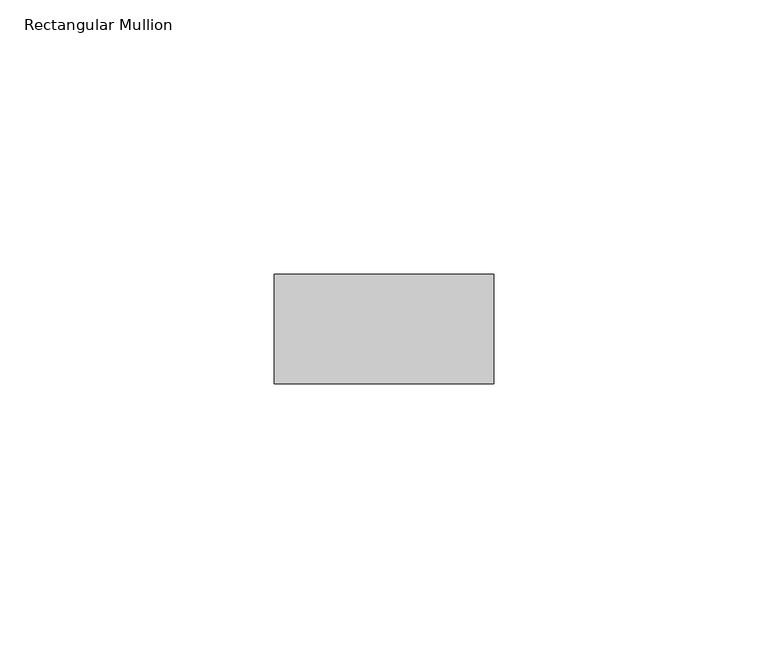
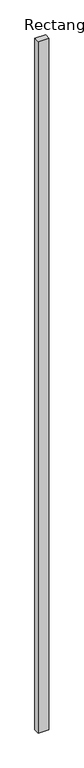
"""IFC4 building model written with IfcOpenShell, lengths in millimetres: member geometry, Rectangular Mullion : RIPA 4x2 cm."""

from ifc_helpers import new_model, si_unit, frame, origin, place, context, project, spatial, polyline, outline, extrude, source, transform, mapped, element, save


def rectangular_mullion_e9ded699(model_context):
    return source(origin(), model_context, "Body", "SweptSolid", [
        extrude(outline(polyline([(20.0, 0.0), (20.0, -20.0), (-20.0, -20.0), (-20.0, 0.0), (20.0, 0.0)])), frame((0.0, 0.0, -2707.2417733), z_axis=(0.0, 0.0, 1.0), x_axis=(1.0, 0.0, 0.0)), (0.0, 0.0, 1.0), 2707.2417733),
    ])


if __name__ == "__main__":
    model = new_model("IFC4")
    model_context = context("Model", 3, world=origin())
    ifc_project = project(units=[si_unit("LENGTHUNIT", "METRE", prefix="MILLI")], contexts=[model_context])
    site = spatial("IfcSite", under=ifc_project)
    building = spatial("IfcBuilding", under=site)
    placement = place(None, origin())
    rectangular_mullion_shape = rectangular_mullion_e9ded699(model_context)
    element("IfcMember", 1, ObjectType="Rectangular Mullion : RIPA 4x2 cm", at=placement, inside=building, context=model_context, shape_type="MappedRepresentation", body=[
        mapped(rectangular_mullion_shape, transform((0.0, 0.0, 0.0), x_axis=(1.0, 0.0, 0.0), y_axis=(0.0, 1.0, 0.0), z_axis=(0.0, 0.0, 1.0))),
    ])
    save(model, "model.ifc")
